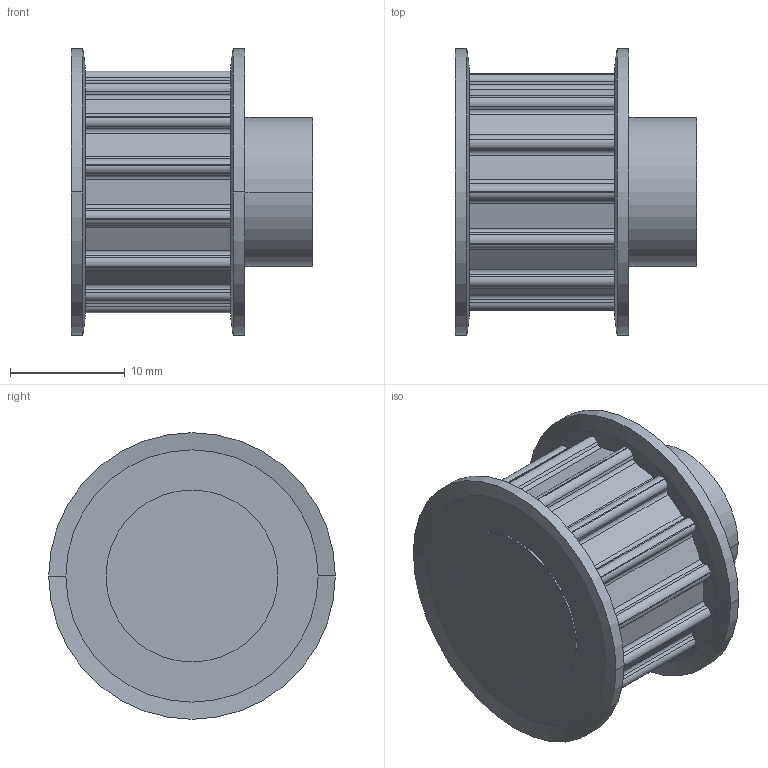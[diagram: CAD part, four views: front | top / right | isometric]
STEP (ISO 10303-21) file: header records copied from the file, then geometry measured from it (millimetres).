
FILE_DESCRIPTION( ( '' ), '1' );
FILE_NAME( 'C:/Users/Stangenbergd/Documents/CAD_Step/1/16621400.stp', '2021-10-19T09:33:34', ( '' ), ( '' ), ' ', ' ', ' ' );
FILE_SCHEMA( ( 'CONFIG_CONTROL_DESIGN' ) );
Length unit declared in the file: millimetre
Products named in the file (1): 1
Bounding box: 21.06 x 25 x 25 mm (x, y, z)
Volume: 5646.9 mm3; surface area: 2759.8 mm2
Topology: 1 solids, 1 shells, 137 faces, 382 edges, 252 vertices
Faces by surface type: cylinder 80, plane 49, cone 8
Entity records: 4504 total; most frequent: DIRECTION 826, CARTESIAN_POINT 772, ORIENTED_EDGE 764, EDGE_CURVE 382, AXIS2_PLACEMENT_3D 306, VERTEX_POINT 252, LINE 214, VECTOR 214
